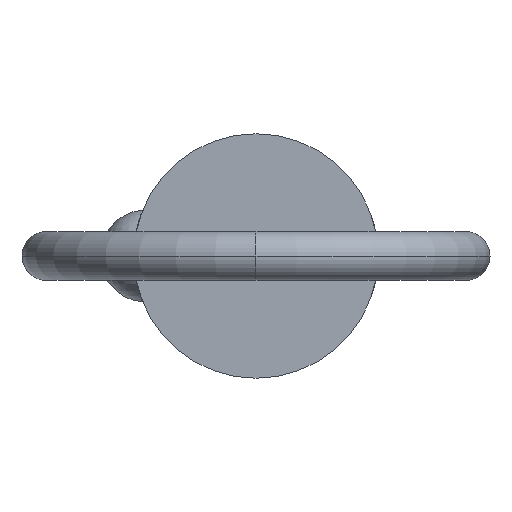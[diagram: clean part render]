
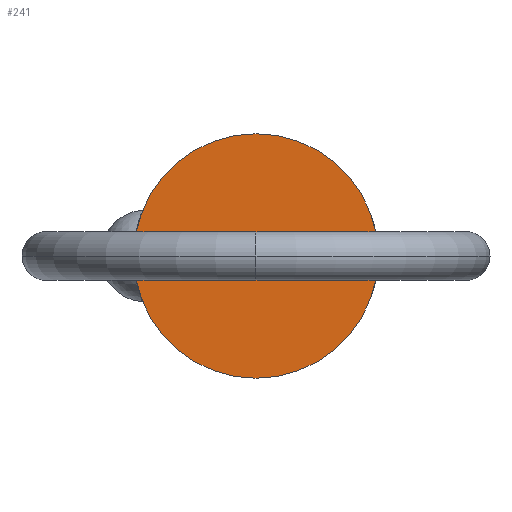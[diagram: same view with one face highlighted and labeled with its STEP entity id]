
A CAD part, left-side view. The second image highlights one B-rep face of the part: STEP entity #241.
In plain terms, the highlighted planar face has unit normal (-1, 0, 0).
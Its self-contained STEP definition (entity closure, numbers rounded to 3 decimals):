
#14 = AXIS2_PLACEMENT_3D ( 'NONE', #424, #135, #267 ) ;
#19 = CARTESIAN_POINT ( 'NONE',  ( 0., 0., 0. ) ) ;
#135 = DIRECTION ( 'NONE',  ( 1., 0., 0. ) ) ;
#155 = ORIENTED_EDGE ( 'NONE', *, *, #507, .F. ) ;
#168 = VERTEX_POINT ( 'NONE', #705 ) ;
#184 = EDGE_LOOP ( 'NONE', ( #259, #155 ) ) ;
#209 = DIRECTION ( 'NONE',  ( 0., 0., 1. ) ) ;
#224 = FACE_OUTER_BOUND ( 'NONE', #184, .T. ) ;
#241 = ADVANCED_FACE ( 'NONE', ( #224 ), #380, .T. ) ;
#259 = ORIENTED_EDGE ( 'NONE', *, *, #804, .F. ) ;
#267 = DIRECTION ( 'NONE',  ( 0., 0., -1. ) ) ;
#338 = AXIS2_PLACEMENT_3D ( 'NONE', #19, #449, #437 ) ;
#380 = PLANE ( 'NONE',  #445 ) ;
#424 = CARTESIAN_POINT ( 'NONE',  ( 0., 0., 0. ) ) ;
#437 = DIRECTION ( 'NONE',  ( 0., 0., -1. ) ) ;
#445 = AXIS2_PLACEMENT_3D ( 'NONE', #517, #790, #209 ) ;
#449 = DIRECTION ( 'NONE',  ( 1., 0., 0. ) ) ;
#507 = EDGE_CURVE ( 'NONE', #793, #168, #896, .T. ) ;
#517 = CARTESIAN_POINT ( 'NONE',  ( 0., 0., 0. ) ) ;
#622 = CIRCLE ( 'NONE', #14, 11.115 ) ;
#627 = CARTESIAN_POINT ( 'NONE',  ( 0., 0., 11.115 ) ) ;
#705 = CARTESIAN_POINT ( 'NONE',  ( 0., 0., -11.115 ) ) ;
#790 = DIRECTION ( 'NONE',  ( -1., 0., 0. ) ) ;
#793 = VERTEX_POINT ( 'NONE', #627 ) ;
#804 = EDGE_CURVE ( 'NONE', #168, #793, #622, .T. ) ;
#896 = CIRCLE ( 'NONE', #338, 11.115 ) ;
